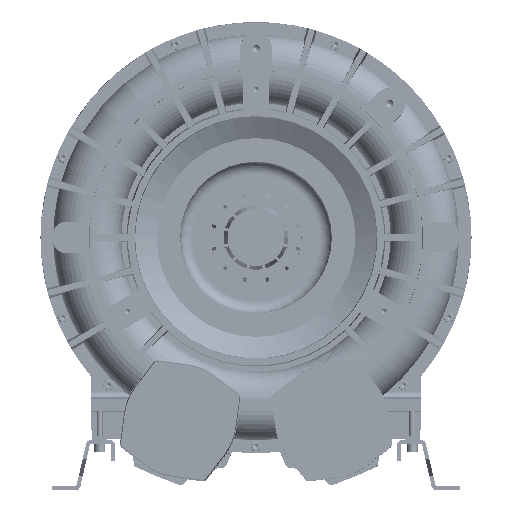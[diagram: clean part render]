
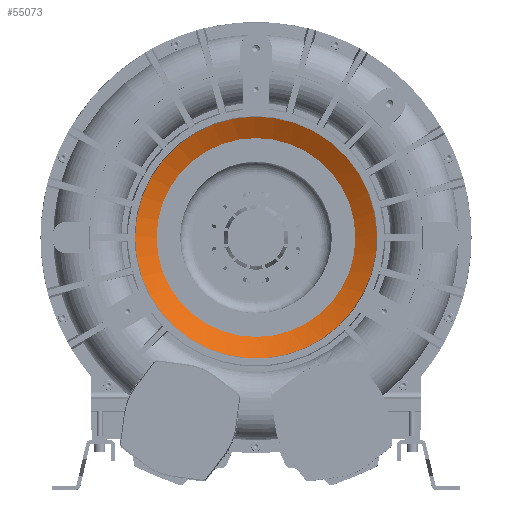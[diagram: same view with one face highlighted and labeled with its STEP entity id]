
A CAD part, top view. The second image highlights one B-rep face of the part: STEP entity #55073.
In plain terms, the highlighted conical face has half-angle 62 degrees and reference radius 131.023 mm.
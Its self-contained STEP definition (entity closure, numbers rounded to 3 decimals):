
#11299 = AXIS2_PLACEMENT_3D ( 'NONE', #148989, #192840, #191427 ) ;
#13369 = CARTESIAN_POINT ( 'NONE',  ( 0., 0., 290.5 ) ) ;
#29942 = EDGE_CURVE ( 'NONE', #104118, #104118, #274706, .T. ) ;
#54341 = EDGE_LOOP ( 'NONE', ( #117067 ) ) ;
#55073 = ADVANCED_FACE ( 'NONE', ( #83839, #255086 ), #201324, .F. ) ;
#83839 = FACE_OUTER_BOUND ( 'NONE', #54341, .T. ) ;
#99778 = DIRECTION ( 'NONE',  ( 0., 0., 1. ) ) ;
#104118 = VERTEX_POINT ( 'NONE', #231453 ) ;
#105882 = EDGE_CURVE ( 'NONE', #198169, #198169, #264639, .T. ) ;
#117067 = ORIENTED_EDGE ( 'NONE', *, *, #29942, .F. ) ;
#119808 = ORIENTED_EDGE ( 'NONE', *, *, #105882, .F. ) ;
#148989 = CARTESIAN_POINT ( 'NONE',  ( 0., 0., 290.5 ) ) ;
#179927 = DIRECTION ( 'NONE',  ( 0., 0., -1. ) ) ;
#191427 = DIRECTION ( 'NONE',  ( 1., 0., 0. ) ) ;
#192840 = DIRECTION ( 'NONE',  ( 0., 0., 1. ) ) ;
#198169 = VERTEX_POINT ( 'NONE', #220759 ) ;
#201324 = CONICAL_SURFACE ( 'NONE', #11299, 131.023, 1.082 ) ;
#220759 = CARTESIAN_POINT ( 'NONE',  ( -131.023, 0., 290.5 ) ) ;
#231453 = CARTESIAN_POINT ( 'NONE',  ( -159.217, 0., 305.491 ) ) ;
#240793 = CARTESIAN_POINT ( 'NONE',  ( 0., 0., 305.491 ) ) ;
#243218 = AXIS2_PLACEMENT_3D ( 'NONE', #240793, #179927, #244965 ) ;
#244965 = DIRECTION ( 'NONE',  ( -1., 0., 0. ) ) ;
#255086 = FACE_BOUND ( 'NONE', #272882, .T. ) ;
#264639 = CIRCLE ( 'NONE', #278349, 131.023 ) ;
#272409 = DIRECTION ( 'NONE',  ( -1., 0., 0. ) ) ;
#272882 = EDGE_LOOP ( 'NONE', ( #119808 ) ) ;
#274706 = CIRCLE ( 'NONE', #243218, 159.217 ) ;
#278349 = AXIS2_PLACEMENT_3D ( 'NONE', #13369, #99778, #272409 ) ;
